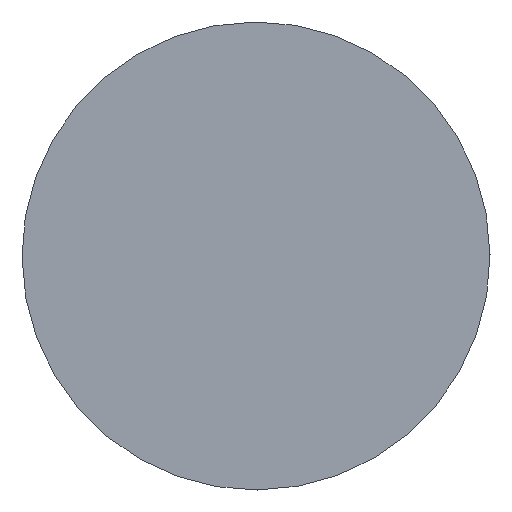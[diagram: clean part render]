
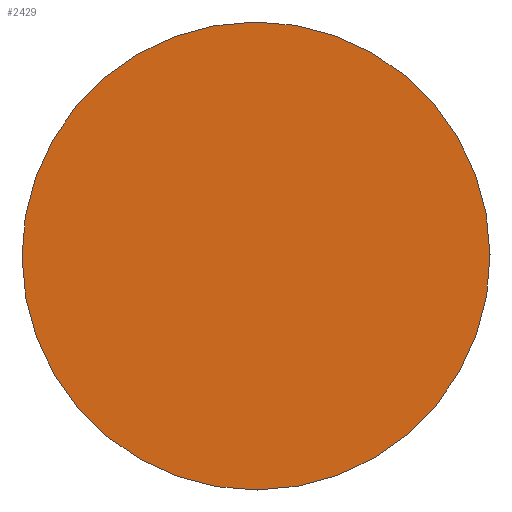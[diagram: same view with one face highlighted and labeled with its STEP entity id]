
A CAD part, left-side view. The second image highlights one B-rep face of the part: STEP entity #2429.
In plain terms, the highlighted planar face has unit normal (-1, 0, 0).
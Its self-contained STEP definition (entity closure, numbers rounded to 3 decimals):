
#2406=CARTESIAN_POINT('',(-52.445,73.84,8.953));
#2407=VERTEX_POINT('',#2406);
#2408=CARTESIAN_POINT('',(-52.445,21.095,0.));
#2409=DIRECTION('',(-1.0,0.,0.));
#2410=DIRECTION('',(0.,0.986,0.167));
#2411=AXIS2_PLACEMENT_3D('',#2408,#2409,#2410);
#2412=CIRCLE('',#2411,53.5);
#2413=EDGE_CURVE('',#2407,#2407,#2412,.T.);
#2421=CARTESIAN_POINT('',(-52.445,67.185,7.824));
#2422=DIRECTION('',(-1.0,0.0,0.0));
#2423=DIRECTION('',(0.0,0.167,-0.986));
#2424=AXIS2_PLACEMENT_3D('',#2421,#2422,#2423);
#2425=PLANE('',#2424);
#2426=ORIENTED_EDGE('',*,*,#2413,.T.);
#2427=EDGE_LOOP('',(#2426));
#2428=FACE_OUTER_BOUND('',#2427,.T.);
#2429=ADVANCED_FACE('',(#2428),#2425,.T.);
